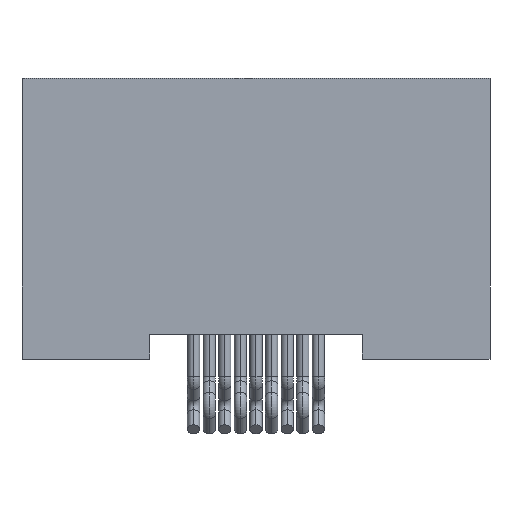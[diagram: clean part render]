
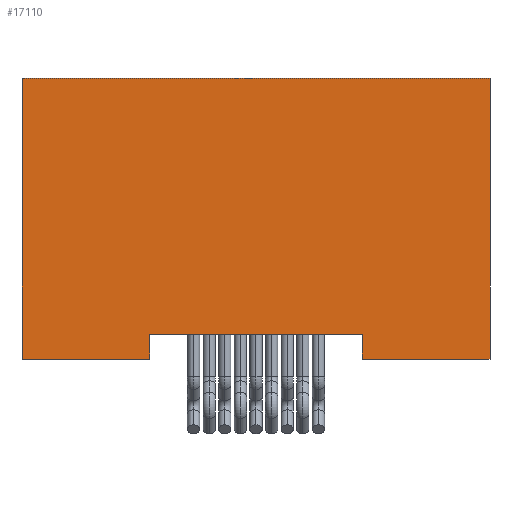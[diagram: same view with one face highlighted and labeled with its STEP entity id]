
A CAD part, front view. The second image highlights one B-rep face of the part: STEP entity #17110.
In plain terms, the highlighted planar face has unit normal (0, -1, 0).
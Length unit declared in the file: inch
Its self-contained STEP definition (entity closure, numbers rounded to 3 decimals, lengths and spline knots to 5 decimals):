
#248 = VECTOR ( 'NONE', #20845, 39.37008 ) ;
#592 = DIRECTION ( 'NONE',  ( 1., 0., 0. ) ) ;
#767 = VECTOR ( 'NONE', #12176, 39.37008 ) ;
#1367 = EDGE_CURVE ( 'NONE', #11933, #21728, #12920, .T. ) ;
#1550 = CARTESIAN_POINT ( 'NONE',  ( -0.1875, -0.0575, -0.225 ) ) ;
#2232 = EDGE_CURVE ( 'NONE', #14570, #9958, #6388, .T. ) ;
#2425 = VECTOR ( 'NONE', #8892, 39.37008 ) ;
#2858 = ORIENTED_EDGE ( 'NONE', *, *, #9222, .F. ) ;
#3291 = VERTEX_POINT ( 'NONE', #14419 ) ;
#3470 = CARTESIAN_POINT ( 'NONE',  ( -0.1875, -0.0575, -0.225 ) ) ;
#3921 = CARTESIAN_POINT ( 'NONE',  ( 0.1875, -0.0575, -0.225 ) ) ;
#4001 = CARTESIAN_POINT ( 'NONE',  ( -0.1875, -0.0575, 0. ) ) ;
#4099 = EDGE_CURVE ( 'NONE', #9958, #3291, #20439, .T. ) ;
#4197 = EDGE_LOOP ( 'NONE', ( #6835, #15546, #21924, #10074, #2858, #17810, #14469, #16191 ) ) ;
#4820 = DIRECTION ( 'NONE',  ( 0., 0., -1. ) ) ;
#4841 = DIRECTION ( 'NONE',  ( 0., 0., 1. ) ) ;
#6388 = LINE ( 'NONE', #16307, #10469 ) ;
#6404 = VERTEX_POINT ( 'NONE', #16895 ) ;
#6742 = EDGE_CURVE ( 'NONE', #6404, #21728, #17774, .T. ) ;
#6835 = ORIENTED_EDGE ( 'NONE', *, *, #13436, .T. ) ;
#7077 = LINE ( 'NONE', #15758, #2425 ) ;
#7857 = CARTESIAN_POINT ( 'NONE',  ( 0.085, -0.0575, -0.225 ) ) ;
#8892 = DIRECTION ( 'NONE',  ( 0., 0., -1. ) ) ;
#9222 = EDGE_CURVE ( 'NONE', #20526, #6404, #10566, .T. ) ;
#9411 = AXIS2_PLACEMENT_3D ( 'NONE', #11189, #9531, #21643 ) ;
#9516 = LINE ( 'NONE', #19111, #248 ) ;
#9531 = DIRECTION ( 'NONE',  ( 0., -1., 0. ) ) ;
#9958 = VERTEX_POINT ( 'NONE', #10404 ) ;
#10074 = ORIENTED_EDGE ( 'NONE', *, *, #6742, .F. ) ;
#10404 = CARTESIAN_POINT ( 'NONE',  ( -0.085, -0.0575, -0.205 ) ) ;
#10469 = VECTOR ( 'NONE', #21566, 39.37008 ) ;
#10566 = LINE ( 'NONE', #3470, #767 ) ;
#11189 = CARTESIAN_POINT ( 'NONE',  ( -0.1875, -0.0575, -0.225 ) ) ;
#11228 = VECTOR ( 'NONE', #4820, 39.37008 ) ;
#11933 = VERTEX_POINT ( 'NONE', #3921 ) ;
#12176 = DIRECTION ( 'NONE',  ( 0., 0., 1. ) ) ;
#12238 = CARTESIAN_POINT ( 'NONE',  ( 0.1875, -0.0575, 0. ) ) ;
#12655 = VECTOR ( 'NONE', #592, 39.37008 ) ;
#12920 = LINE ( 'NONE', #20484, #18871 ) ;
#13436 = EDGE_CURVE ( 'NONE', #14570, #21246, #7077, .T. ) ;
#13951 = EDGE_CURVE ( 'NONE', #20526, #3291, #9516, .T. ) ;
#14222 = FACE_OUTER_BOUND ( 'NONE', #4197, .T. ) ;
#14419 = CARTESIAN_POINT ( 'NONE',  ( -0.085, -0.0575, -0.225 ) ) ;
#14469 = ORIENTED_EDGE ( 'NONE', *, *, #4099, .F. ) ;
#14570 = VERTEX_POINT ( 'NONE', #19231 ) ;
#15244 = CARTESIAN_POINT ( 'NONE',  ( -0.085, -0.0575, -0.205 ) ) ;
#15447 = DIRECTION ( 'NONE',  ( 1., 0., 0. ) ) ;
#15546 = ORIENTED_EDGE ( 'NONE', *, *, #15687, .T. ) ;
#15687 = EDGE_CURVE ( 'NONE', #21246, #11933, #18377, .T. ) ;
#15758 = CARTESIAN_POINT ( 'NONE',  ( 0.085, -0.0575, -0.205 ) ) ;
#16191 = ORIENTED_EDGE ( 'NONE', *, *, #2232, .F. ) ;
#16307 = CARTESIAN_POINT ( 'NONE',  ( 0.085, -0.0575, -0.205 ) ) ;
#16895 = CARTESIAN_POINT ( 'NONE',  ( -0.1875, -0.0575, 0. ) ) ;
#17110 = ADVANCED_FACE ( 'NONE', ( #14222 ), #18138, .T. ) ;
#17774 = LINE ( 'NONE', #4001, #12655 ) ;
#17810 = ORIENTED_EDGE ( 'NONE', *, *, #13951, .T. ) ;
#18017 = CARTESIAN_POINT ( 'NONE',  ( -0.1875, -0.0575, -0.225 ) ) ;
#18138 = PLANE ( 'NONE',  #9411 ) ;
#18377 = LINE ( 'NONE', #1550, #22470 ) ;
#18871 = VECTOR ( 'NONE', #4841, 39.37008 ) ;
#19111 = CARTESIAN_POINT ( 'NONE',  ( -0.1875, -0.0575, -0.225 ) ) ;
#19231 = CARTESIAN_POINT ( 'NONE',  ( 0.085, -0.0575, -0.205 ) ) ;
#20439 = LINE ( 'NONE', #15244, #11228 ) ;
#20484 = CARTESIAN_POINT ( 'NONE',  ( 0.1875, -0.0575, -0.225 ) ) ;
#20526 = VERTEX_POINT ( 'NONE', #18017 ) ;
#20845 = DIRECTION ( 'NONE',  ( 1., 0., 0. ) ) ;
#21246 = VERTEX_POINT ( 'NONE', #7857 ) ;
#21566 = DIRECTION ( 'NONE',  ( -1., 0., 0. ) ) ;
#21643 = DIRECTION ( 'NONE',  ( 1., 0., 0. ) ) ;
#21728 = VERTEX_POINT ( 'NONE', #12238 ) ;
#21924 = ORIENTED_EDGE ( 'NONE', *, *, #1367, .T. ) ;
#22470 = VECTOR ( 'NONE', #15447, 39.37008 ) ;
